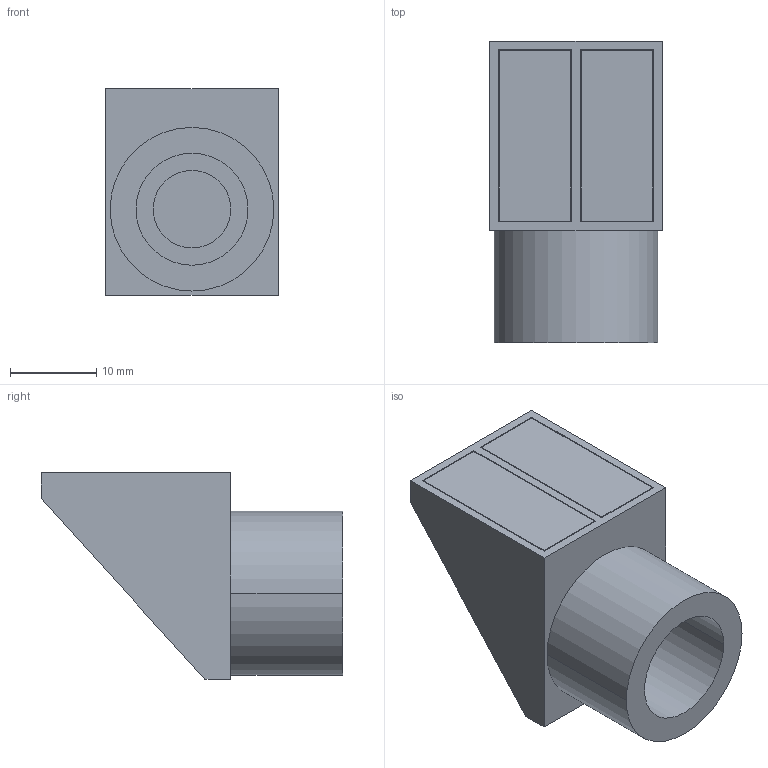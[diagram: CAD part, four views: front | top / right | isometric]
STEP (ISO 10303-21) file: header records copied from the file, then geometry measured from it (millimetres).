
FILE_DESCRIPTION( ( '' ), '1' );
FILE_NAME( '//partserver001.servicenet/client_exchange/iodir/jobs/output/wkb18264300_no5/STEP/e20590_2_03.stp', '2009-08-26T14:20:42', ( '' ), ( '' ), ' ', ' ', ' ' );
FILE_SCHEMA( ( 'CONFIG_CONTROL_DESIGN' ) );
Length unit declared in the file: millimetre
Products named in the file (1): 1
Bounding box: 20 x 35 x 24 mm (x, y, z)
Volume: 8534.7 mm3; surface area: 3608.6 mm2
Topology: 1 solids, 1 shells, 36 faces, 81 edges, 54 vertices
Faces by surface type: plane 30, cylinder 6
Entity records: 1041 total; most frequent: CARTESIAN_POINT 172, DIRECTION 167, ORIENTED_EDGE 162, EDGE_CURVE 81, LINE 69, VECTOR 69, VERTEX_POINT 54, AXIS2_PLACEMENT_3D 49
